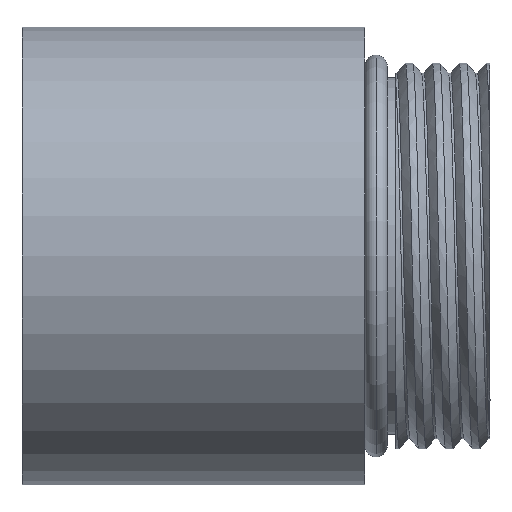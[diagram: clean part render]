
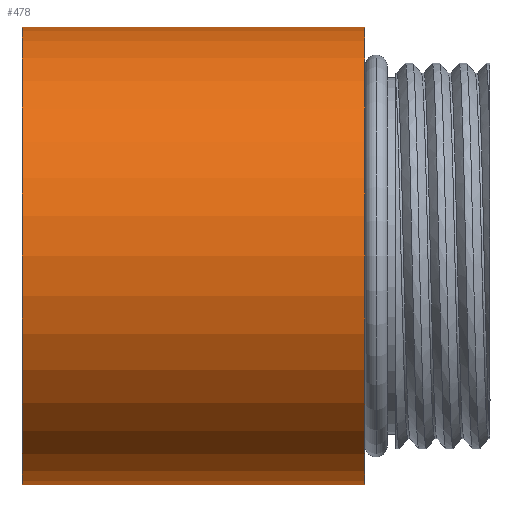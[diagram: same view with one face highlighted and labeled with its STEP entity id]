
A CAD part, front view. The second image highlights one B-rep face of the part: STEP entity #478.
In plain terms, the highlighted cylindrical face has radius 11.995 mm (diameter 23.99 mm), a partial arc.
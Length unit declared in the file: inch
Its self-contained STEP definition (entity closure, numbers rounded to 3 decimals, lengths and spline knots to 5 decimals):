
#60 = VERTEX_POINT ( 'NONE', #901 ) ;
#111 = VERTEX_POINT ( 'NONE', #1020 ) ;
#136 = VERTEX_POINT ( 'NONE', #1172 ) ;
#138 = EDGE_CURVE ( 'NONE', #136, #230, #1171, .T. ) ;
#176 = EDGE_CURVE ( 'NONE', #111, #60, #1141, .T. ) ;
#230 = VERTEX_POINT ( 'NONE', #1288 ) ;
#365 = EDGE_LOOP ( 'NONE', ( #540, #494, #599, #426 ) ) ;
#426 = ORIENTED_EDGE ( 'NONE', *, *, #427, .F. ) ;
#427 = EDGE_CURVE ( 'NONE', #230, #60, #1912, .T. ) ;
#478 = ADVANCED_FACE ( 'NONE', ( #1965 ), #2075, .T. ) ;
#494 = ORIENTED_EDGE ( 'NONE', *, *, #563, .T. ) ;
#540 = ORIENTED_EDGE ( 'NONE', *, *, #138, .F. ) ;
#563 = EDGE_CURVE ( 'NONE', #136, #111, #2867, .T. ) ;
#599 = ORIENTED_EDGE ( 'NONE', *, *, #176, .T. ) ;
#901 = CARTESIAN_POINT ( 'NONE',  ( 0., 0., 0.47225 ) ) ;
#1020 = CARTESIAN_POINT ( 'NONE',  ( 0.708, 0., 0.47225 ) ) ;
#1138 = DIRECTION ( 'NONE',  ( -1., 0., 0. ) ) ;
#1139 = VECTOR ( 'NONE', #1138, 39.37008 ) ;
#1140 = CARTESIAN_POINT ( 'NONE',  ( -0.11095, 0., 0.47225 ) ) ;
#1141 = LINE ( 'NONE', #1140, #1139 ) ;
#1168 = DIRECTION ( 'NONE',  ( -1., 0., 0. ) ) ;
#1169 = VECTOR ( 'NONE', #1168, 39.37008 ) ;
#1170 = CARTESIAN_POINT ( 'NONE',  ( -0.11095, 0., -0.47225 ) ) ;
#1171 = LINE ( 'NONE', #1170, #1169 ) ;
#1172 = CARTESIAN_POINT ( 'NONE',  ( 0.708, 0., -0.47225 ) ) ;
#1288 = CARTESIAN_POINT ( 'NONE',  ( 0., 0., -0.47225 ) ) ;
#1903 = DIRECTION ( 'NONE',  ( 0., 0., 1. ) ) ;
#1904 = DIRECTION ( 'NONE',  ( -1., 0., 0. ) ) ;
#1905 = CARTESIAN_POINT ( 'NONE',  ( 0., 0., 0. ) ) ;
#1906 = AXIS2_PLACEMENT_3D ( 'NONE', #1905, #1904, #1903 ) ;
#1912 = CIRCLE ( 'NONE', #1906, 0.47225 ) ;
#1965 = FACE_OUTER_BOUND ( 'NONE', #365, .T. ) ;
#2072 = DIRECTION ( 'NONE',  ( 0., 0., 1. ) ) ;
#2073 = DIRECTION ( 'NONE',  ( -1., 0., 0. ) ) ;
#2074 = AXIS2_PLACEMENT_3D ( 'NONE', #2076, #2073, #2072 ) ;
#2075 = CYLINDRICAL_SURFACE ( 'NONE', #2074, 0.47225 ) ;
#2076 = CARTESIAN_POINT ( 'NONE',  ( -0.11095, 0., 0. ) ) ;
#2867 = CIRCLE ( 'NONE', #2974, 0.47225 ) ;
#2944 = DIRECTION ( 'NONE',  ( 0., 0., 1. ) ) ;
#2947 = CARTESIAN_POINT ( 'NONE',  ( 0.708, 0., 0. ) ) ;
#2971 = DIRECTION ( 'NONE',  ( -1., 0., 0. ) ) ;
#2974 = AXIS2_PLACEMENT_3D ( 'NONE', #2947, #2971, #2944 ) ;
